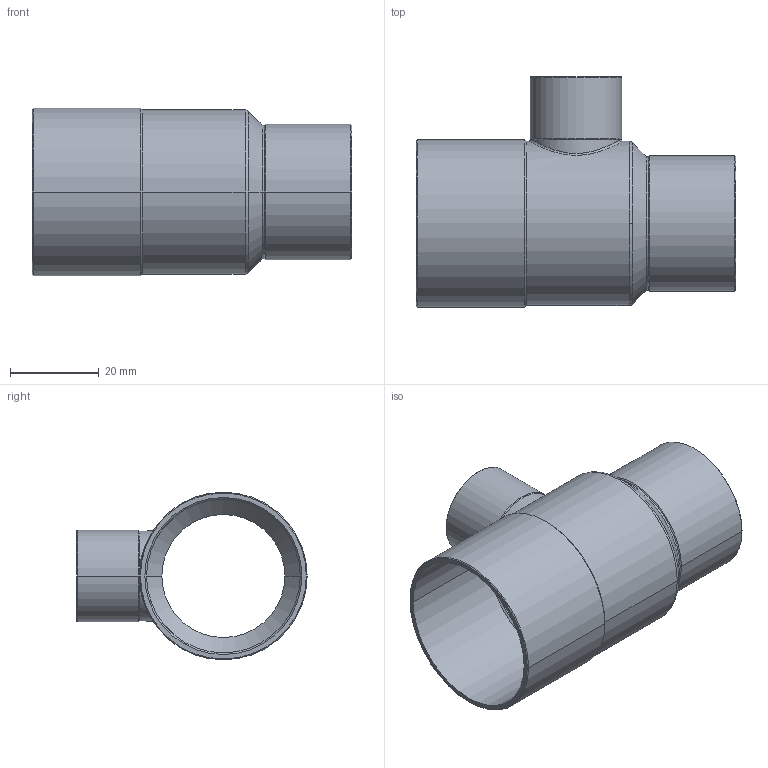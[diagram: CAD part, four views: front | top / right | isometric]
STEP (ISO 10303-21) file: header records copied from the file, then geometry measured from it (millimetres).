
FILE_DESCRIPTION((''),'2;1');
FILE_NAME('G:\Technics\CAD\Bauteile\15130\15130351828.stp','2005-11-03T13:42:52',('boden'),(''),'Autodesk Inventor 8','Autodesk Inventor 8','');
FILE_SCHEMA(('AUTOMOTIVE_DESIGN { 1 0 10303 214 1 1 1 1 }'));
Length unit declared in the file: millimetre
Products named in the file (1): 15130351828
Bounding box: 72 x 51.88 x 37.75 mm (x, y, z)
Volume: 10353 mm3; surface area: 17392.5 mm2
Topology: 1 solids, 1 shells, 57 faces, 132 edges, 76 vertices
Faces by surface type: cone 26, cylinder 24, plane 3, torus 2, bspline 2
Entity records: 2047 total; most frequent: CARTESIAN_POINT 722, DIRECTION 288, ORIENTED_EDGE 264, EDGE_CURVE 132, AXIS2_PLACEMENT_3D 120, VERTEX_POINT 76, CIRCLE 64, EDGE_LOOP 60
